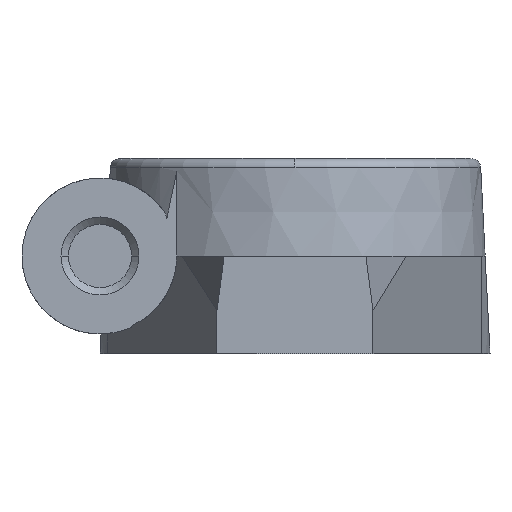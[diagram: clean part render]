
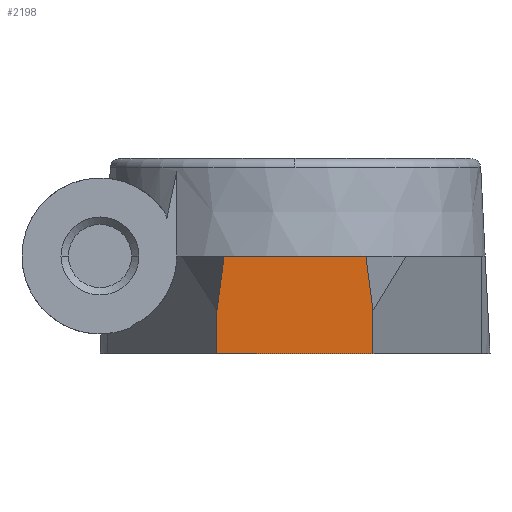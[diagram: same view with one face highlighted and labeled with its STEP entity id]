
A CAD part, left-side view. The second image highlights one B-rep face of the part: STEP entity #2198.
In plain terms, the highlighted planar face has unit normal (-1, 0, 0).
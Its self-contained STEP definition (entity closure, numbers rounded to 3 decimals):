
#43 = EDGE_CURVE ( 'NONE', #1208, #1266, #686, .T. ) ;
#51 = AXIS2_PLACEMENT_3D ( 'NONE', #367, #1187, #2555 ) ;
#193 = EDGE_CURVE ( 'NONE', #1208, #552, #801, .T. ) ;
#223 = VECTOR ( 'NONE', #1572, 1000. ) ;
#248 = ORIENTED_EDGE ( 'NONE', *, *, #43, .F. ) ;
#282 = DIRECTION ( 'NONE',  ( 0., 0.13, -0.992 ) ) ;
#321 = LINE ( 'NONE', #2095, #324 ) ;
#324 = VECTOR ( 'NONE', #282, 1000. ) ;
#346 = VECTOR ( 'NONE', #2391, 1000. ) ;
#362 = VERTEX_POINT ( 'NONE', #2071 ) ;
#367 = CARTESIAN_POINT ( 'NONE',  ( -21.5, -4., 0. ) ) ;
#546 = CARTESIAN_POINT ( 'NONE',  ( -21.5, -4., 0. ) ) ;
#552 = VERTEX_POINT ( 'NONE', #546 ) ;
#555 = VERTEX_POINT ( 'NONE', #1352 ) ;
#557 = LINE ( 'NONE', #980, #223 ) ;
#686 = LINE ( 'NONE', #911, #1995 ) ;
#782 = LINE ( 'NONE', #1587, #346 ) ;
#801 = LINE ( 'NONE', #1343, #2273 ) ;
#911 = CARTESIAN_POINT ( 'NONE',  ( -21.5, 4., 0. ) ) ;
#952 = LINE ( 'NONE', #1758, #2347 ) ;
#980 = CARTESIAN_POINT ( 'NONE',  ( -21.5, -4., 0. ) ) ;
#1187 = DIRECTION ( 'NONE',  ( -1., 0., 0. ) ) ;
#1208 = VERTEX_POINT ( 'NONE', #1453 ) ;
#1266 = VERTEX_POINT ( 'NONE', #1321 ) ;
#1321 = CARTESIAN_POINT ( 'NONE',  ( -21.5, 4., 2.209 ) ) ;
#1343 = CARTESIAN_POINT ( 'NONE',  ( -21.5, 4., 0. ) ) ;
#1352 = CARTESIAN_POINT ( 'NONE',  ( -21.5, 3.635, 5. ) ) ;
#1453 = CARTESIAN_POINT ( 'NONE',  ( -21.5, 4., 0. ) ) ;
#1461 = EDGE_CURVE ( 'NONE', #362, #555, #952, .T. ) ;
#1560 = ORIENTED_EDGE ( 'NONE', *, *, #193, .T. ) ;
#1572 = DIRECTION ( 'NONE',  ( 0., 0., 1. ) ) ;
#1587 = CARTESIAN_POINT ( 'NONE',  ( -21.5, -4.25, 0.294 ) ) ;
#1591 = ORIENTED_EDGE ( 'NONE', *, *, #2393, .T. ) ;
#1592 = CARTESIAN_POINT ( 'NONE',  ( -21.5, -4., 2.209 ) ) ;
#1637 = ORIENTED_EDGE ( 'NONE', *, *, #1461, .T. ) ;
#1687 = ORIENTED_EDGE ( 'NONE', *, *, #2259, .T. ) ;
#1740 = PLANE ( 'NONE',  #51 ) ;
#1758 = CARTESIAN_POINT ( 'NONE',  ( -21.5, 4., 5. ) ) ;
#1782 = EDGE_CURVE ( 'NONE', #555, #1266, #321, .T. ) ;
#1851 = VERTEX_POINT ( 'NONE', #1592 ) ;
#1899 = ORIENTED_EDGE ( 'NONE', *, *, #1782, .T. ) ;
#1995 = VECTOR ( 'NONE', #2329, 1000. ) ;
#2071 = CARTESIAN_POINT ( 'NONE',  ( -21.5, -3.635, 5. ) ) ;
#2095 = CARTESIAN_POINT ( 'NONE',  ( -21.5, 4.183, 0.808 ) ) ;
#2171 = EDGE_LOOP ( 'NONE', ( #1687, #1637, #1899, #248, #1560, #1591 ) ) ;
#2183 = FACE_OUTER_BOUND ( 'NONE', #2171, .T. ) ;
#2188 = DIRECTION ( 'NONE',  ( 0., -1., 0. ) ) ;
#2198 = ADVANCED_FACE ( 'NONE', ( #2183 ), #1740, .T. ) ;
#2259 = EDGE_CURVE ( 'NONE', #1851, #362, #782, .T. ) ;
#2273 = VECTOR ( 'NONE', #2188, 1000. ) ;
#2329 = DIRECTION ( 'NONE',  ( 0., 0., 1. ) ) ;
#2347 = VECTOR ( 'NONE', #2591, 1000. ) ;
#2391 = DIRECTION ( 'NONE',  ( 0., 0.13, 0.992 ) ) ;
#2393 = EDGE_CURVE ( 'NONE', #552, #1851, #557, .T. ) ;
#2555 = DIRECTION ( 'NONE',  ( 0., 0., 1. ) ) ;
#2591 = DIRECTION ( 'NONE',  ( 0., 1., 0. ) ) ;
